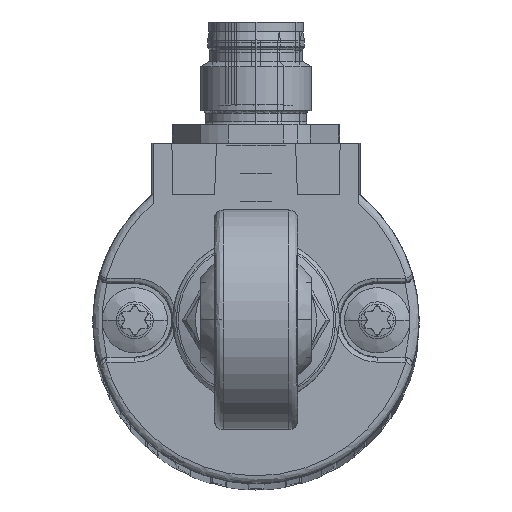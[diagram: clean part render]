
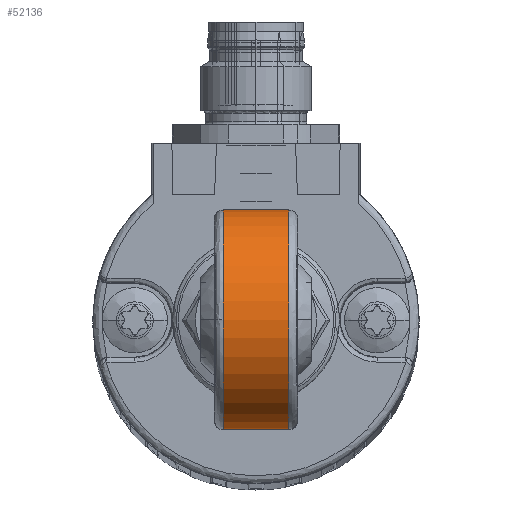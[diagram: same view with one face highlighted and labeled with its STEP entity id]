
A CAD part, top view. The second image highlights one B-rep face of the part: STEP entity #52136.
In plain terms, the highlighted cylindrical face has radius 11.8 mm (diameter 23.6 mm), a partial arc.
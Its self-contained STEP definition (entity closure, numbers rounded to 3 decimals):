
#33153 = DIRECTION ( 'NONE',  ( 0., 1., 0. ) ) ;
#33154 = DIRECTION ( 'NONE',  ( 1., 0., 0. ) ) ;
#33155 = CARTESIAN_POINT ( 'NONE',  ( 3.608, 0.215, 429.85 ) ) ;
#33156 = AXIS2_PLACEMENT_3D ( 'NONE', #33155, #33154, #33153 ) ;
#33157 = CIRCLE ( 'NONE', #33156, 11.8 ) ;
#33158 = CARTESIAN_POINT ( 'NONE',  ( 3.608, 9.591, 422.686 ) ) ;
#33159 = CARTESIAN_POINT ( 'NONE',  ( 3.608, -9.161, 422.686 ) ) ;
#33908 = FACE_OUTER_BOUND ( 'NONE', #52135, .T. ) ;
#33909 = DIRECTION ( 'NONE',  ( 0., 0., -1. ) ) ;
#33910 = DIRECTION ( 'NONE',  ( -1., 0., 0. ) ) ;
#33911 = CARTESIAN_POINT ( 'NONE',  ( -3.392, 0.215, 429.85 ) ) ;
#33912 = AXIS2_PLACEMENT_3D ( 'NONE', #33911, #33910, #33909 ) ;
#33913 = CIRCLE ( 'NONE', #33912, 11.8 ) ;
#33914 = CARTESIAN_POINT ( 'NONE',  ( -3.392, 0.215, 441.65 ) ) ;
#33915 = CARTESIAN_POINT ( 'NONE',  ( -3.392, 9.591, 422.686 ) ) ;
#33916 = DIRECTION ( 'NONE',  ( 0., 0., -1. ) ) ;
#33917 = DIRECTION ( 'NONE',  ( -1., 0., 0. ) ) ;
#33918 = CARTESIAN_POINT ( 'NONE',  ( -3.392, 0.215, 429.85 ) ) ;
#33919 = AXIS2_PLACEMENT_3D ( 'NONE', #33918, #33917, #33916 ) ;
#33920 = CIRCLE ( 'NONE', #33919, 11.8 ) ;
#33921 = CARTESIAN_POINT ( 'NONE',  ( -3.392, -9.161, 422.686 ) ) ;
#33922 = DIRECTION ( 'NONE',  ( 1., 0., 0. ) ) ;
#33923 = VECTOR ( 'NONE', #33922, 1000. ) ;
#33924 = CARTESIAN_POINT ( 'NONE',  ( 0.108, -9.161, 422.686 ) ) ;
#33925 = LINE ( 'NONE', #33924, #33923 ) ;
#33926 = DIRECTION ( 'NONE',  ( -1., 0., 0. ) ) ;
#33927 = VECTOR ( 'NONE', #33926, 1000. ) ;
#33928 = CARTESIAN_POINT ( 'NONE',  ( 0.108, 9.591, 422.686 ) ) ;
#33929 = LINE ( 'NONE', #33928, #33927 ) ;
#33969 = DIRECTION ( 'NONE',  ( 0., 0., -1. ) ) ;
#33970 = DIRECTION ( 'NONE',  ( 1., 0., 0. ) ) ;
#33971 = AXIS2_PLACEMENT_3D ( 'NONE', #33972, #33970, #33969 ) ;
#33972 = CARTESIAN_POINT ( 'NONE',  ( -3.392, 0.215, 429.85 ) ) ;
#33973 = CYLINDRICAL_SURFACE ( 'NONE', #33971, 11.8 ) ;
#51976 = VERTEX_POINT ( 'NONE', #33159 ) ;
#51977 = VERTEX_POINT ( 'NONE', #33158 ) ;
#51978 = EDGE_CURVE ( 'NONE', #51977, #51976, #33157, .T. ) ;
#52123 = EDGE_CURVE ( 'NONE', #51977, #52131, #33929, .T. ) ;
#52124 = ORIENTED_EDGE ( 'NONE', *, *, #52123, .T. ) ;
#52125 = ORIENTED_EDGE ( 'NONE', *, *, #51978, .F. ) ;
#52126 = EDGE_CURVE ( 'NONE', #52128, #51976, #33925, .T. ) ;
#52127 = ORIENTED_EDGE ( 'NONE', *, *, #52126, .T. ) ;
#52128 = VERTEX_POINT ( 'NONE', #33921 ) ;
#52129 = EDGE_CURVE ( 'NONE', #52128, #52132, #33920, .T. ) ;
#52130 = ORIENTED_EDGE ( 'NONE', *, *, #52129, .F. ) ;
#52131 = VERTEX_POINT ( 'NONE', #33915 ) ;
#52132 = VERTEX_POINT ( 'NONE', #33914 ) ;
#52133 = EDGE_CURVE ( 'NONE', #52132, #52131, #33913, .T. ) ;
#52134 = ORIENTED_EDGE ( 'NONE', *, *, #52133, .F. ) ;
#52135 = EDGE_LOOP ( 'NONE', ( #52134, #52130, #52127, #52125, #52124 ) ) ;
#52136 = ADVANCED_FACE ( 'NONE', ( #33908 ), #33973, .T. ) ;
